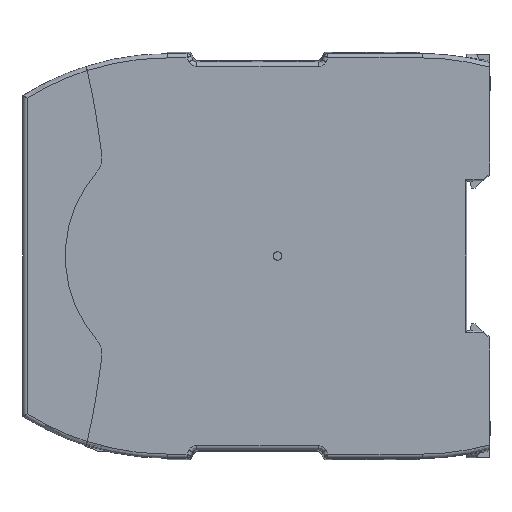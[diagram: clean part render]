
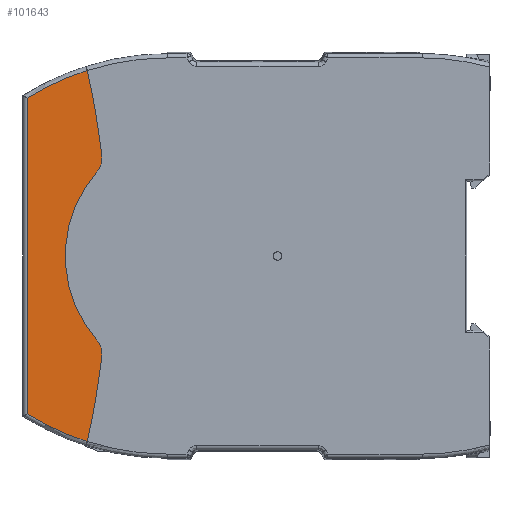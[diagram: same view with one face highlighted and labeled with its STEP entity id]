
A CAD part, left-side view. The second image highlights one B-rep face of the part: STEP entity #101643.
In plain terms, the highlighted planar face has unit normal (-1, 0, 0) as drawn and (0, 0, 1) by its records, which use the part's own axes.
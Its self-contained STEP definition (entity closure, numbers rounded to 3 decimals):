
#9001=FACE_OUTER_BOUND('',#14629,.T.);
#14629=EDGE_LOOP('',(#79370,#79371,#79372,#79373,#79374,#79375,#79376,#79377));
#20382=CIRCLE('',#109166,200.);
#20385=CIRCLE('',#109176,62.539);
#20386=CIRCLE('',#109178,5.);
#20387=CIRCLE('',#109179,30.);
#20388=CIRCLE('',#109180,5.);
#20389=CIRCLE('',#109181,200.);
#20390=CIRCLE('',#109182,62.539);
#25394=LINE('',#170851,#35555);
#35555=VECTOR('',#126246,74.369);
#45950=VERTEX_POINT('',#170785);
#45951=VERTEX_POINT('',#170787);
#45960=VERTEX_POINT('',#170824);
#45961=VERTEX_POINT('',#170841);
#45962=VERTEX_POINT('',#170843);
#45963=VERTEX_POINT('',#170845);
#45964=VERTEX_POINT('',#170847);
#45965=VERTEX_POINT('',#170849);
#57947=EDGE_CURVE('',#45950,#45951,#20382,.T.);
#57960=EDGE_CURVE('',#45960,#45951,#20385,.T.);
#57962=EDGE_CURVE('',#45950,#45961,#20386,.T.);
#57963=EDGE_CURVE('',#45961,#45962,#20387,.T.);
#57964=EDGE_CURVE('',#45962,#45963,#20388,.T.);
#57965=EDGE_CURVE('',#45964,#45963,#20389,.T.);
#57966=EDGE_CURVE('',#45964,#45965,#20390,.T.);
#57967=EDGE_CURVE('',#45965,#45960,#25394,.T.);
#79370=ORIENTED_EDGE('',*,*,#57962,.T.);
#79371=ORIENTED_EDGE('',*,*,#57963,.T.);
#79372=ORIENTED_EDGE('',*,*,#57964,.T.);
#79373=ORIENTED_EDGE('',*,*,#57965,.F.);
#79374=ORIENTED_EDGE('',*,*,#57966,.T.);
#79375=ORIENTED_EDGE('',*,*,#57967,.T.);
#79376=ORIENTED_EDGE('',*,*,#57960,.T.);
#79377=ORIENTED_EDGE('',*,*,#57947,.F.);
#96908=PLANE('',#109177);
#101643=ADVANCED_FACE('',(#9001),#96908,.T.);
#109166=AXIS2_PLACEMENT_3D('',#170788,#126206,#126207);
#109176=AXIS2_PLACEMENT_3D('',#170825,#126232,#126233);
#109177=AXIS2_PLACEMENT_3D('',#170840,#126234,#126235);
#109178=AXIS2_PLACEMENT_3D('',#170842,#126236,#126237);
#109179=AXIS2_PLACEMENT_3D('',#170844,#126238,#126239);
#109180=AXIS2_PLACEMENT_3D('',#170846,#126240,#126241);
#109181=AXIS2_PLACEMENT_3D('',#170848,#126242,#126243);
#109182=AXIS2_PLACEMENT_3D('',#170850,#126244,#126245);
#126206=DIRECTION('center_axis',(0.,0.,-1.));
#126207=DIRECTION('ref_axis',(-0.118,-0.993,0.));
#126232=DIRECTION('center_axis',(0.,0.,1.));
#126233=DIRECTION('ref_axis',(-0.849,0.528,0.));
#126234=DIRECTION('center_axis',(0.,0.,1.));
#126235=DIRECTION('ref_axis',(1.,0.,0.));
#126236=DIRECTION('center_axis',(0.,0.,1.));
#126237=DIRECTION('ref_axis',(-0.118,-0.993,0.));
#126238=DIRECTION('center_axis',(0.,0.,-1.));
#126239=DIRECTION('ref_axis',(-0.658,0.753,0.));
#126240=DIRECTION('center_axis',(0.,0.,1.));
#126241=DIRECTION('ref_axis',(-0.658,-0.753,0.));
#126242=DIRECTION('center_axis',(0.,0.,-1.));
#126243=DIRECTION('ref_axis',(0.218,-0.976,0.));
#126244=DIRECTION('center_axis',(0.,0.,1.));
#126245=DIRECTION('ref_axis',(0.954,0.301,0.));
#126246=DIRECTION('',(-1.,0.,0.));
#170785=CARTESIAN_POINT('',(-23.611,91.399,11.25));
#170787=CARTESIAN_POINT('',(-43.697,94.832,11.25));
#170788=CARTESIAN_POINT('Origin',(0.,290.,11.25));
#170824=CARTESIAN_POINT('',(-37.185,109.,11.25));
#170825=CARTESIAN_POINT('Origin',(15.939,76.,11.25));
#170840=CARTESIAN_POINT('Origin',(0.,0.,11.25));
#170841=CARTESIAN_POINT('',(-19.732,92.597,11.25));
#170842=CARTESIAN_POINT('Origin',(-23.021,96.364,11.25));
#170843=CARTESIAN_POINT('',(19.732,92.597,11.25));
#170844=CARTESIAN_POINT('Origin',(0.,70.,11.25));
#170845=CARTESIAN_POINT('',(23.611,91.399,11.25));
#170846=CARTESIAN_POINT('Origin',(23.021,96.364,11.25));
#170847=CARTESIAN_POINT('',(43.697,94.832,11.25));
#170848=CARTESIAN_POINT('Origin',(0.,290.,11.25));
#170849=CARTESIAN_POINT('',(37.185,109.,11.25));
#170850=CARTESIAN_POINT('Origin',(-15.939,76.,11.25));
#170851=CARTESIAN_POINT('',(37.185,109.,11.25));
